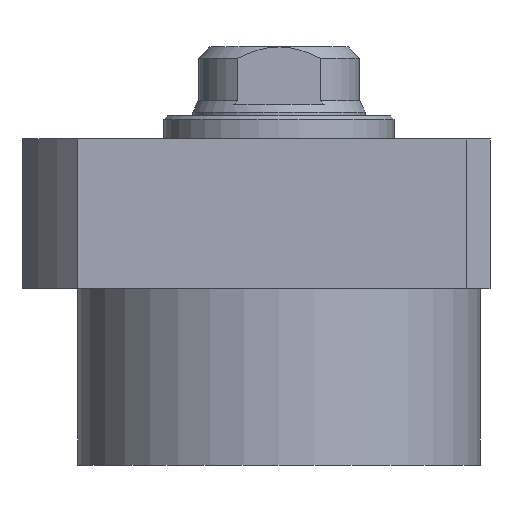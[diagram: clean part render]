
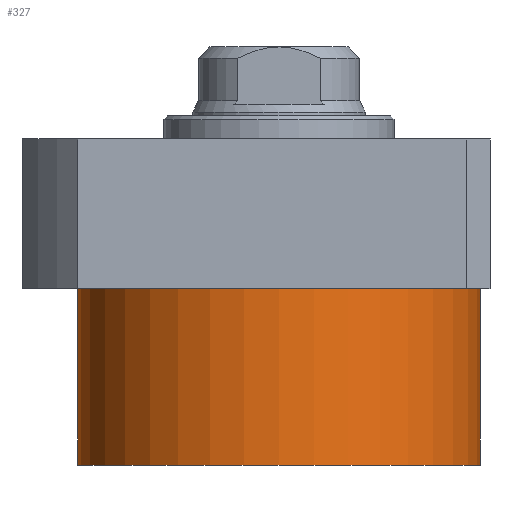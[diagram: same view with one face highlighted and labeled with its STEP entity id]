
A CAD part, front view. The second image highlights one B-rep face of the part: STEP entity #327.
In plain terms, the highlighted cylindrical face has radius 52.5 mm (diameter 105 mm), a partial arc.
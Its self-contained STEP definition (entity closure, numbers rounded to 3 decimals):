
#40 = CARTESIAN_POINT ( 'NONE',  ( 52.5, 0., -65.5 ) ) ;
#56 = DIRECTION ( 'NONE',  ( -1., 0., 0. ) ) ;
#138 = LINE ( 'NONE', #40, #1733 ) ;
#140 = EDGE_CURVE ( 'NONE', #276, #482, #1767, .T. ) ;
#204 = DIRECTION ( 'NONE',  ( 0., 0., 1. ) ) ;
#209 = ORIENTED_EDGE ( 'NONE', *, *, #1036, .T. ) ;
#259 = AXIS2_PLACEMENT_3D ( 'NONE', #1685, #1838, #56 ) ;
#276 = VERTEX_POINT ( 'NONE', #1427 ) ;
#327 = ADVANCED_FACE ( 'NONE', ( #997 ), #902, .T. ) ;
#421 = CIRCLE ( 'NONE', #259, 52.5 ) ;
#482 = VERTEX_POINT ( 'NONE', #1131 ) ;
#538 = DIRECTION ( 'NONE',  ( 1., 0., 0. ) ) ;
#654 = CARTESIAN_POINT ( 'NONE',  ( 52.5, 0., -65.5 ) ) ;
#735 = VERTEX_POINT ( 'NONE', #654 ) ;
#739 = ORIENTED_EDGE ( 'NONE', *, *, #1339, .T. ) ;
#770 = EDGE_CURVE ( 'NONE', #735, #276, #421, .T. ) ;
#820 = DIRECTION ( 'NONE',  ( 0., 0., 1. ) ) ;
#831 = ORIENTED_EDGE ( 'NONE', *, *, #140, .F. ) ;
#866 = CARTESIAN_POINT ( 'NONE',  ( 52.5, 0., -19.5 ) ) ;
#887 = EDGE_LOOP ( 'NONE', ( #831, #1107, #209, #739 ) ) ;
#902 = CYLINDRICAL_SURFACE ( 'NONE', #955, 52.5 ) ;
#922 = VECTOR ( 'NONE', #1481, 1000. ) ;
#955 = AXIS2_PLACEMENT_3D ( 'NONE', #1736, #820, #538 ) ;
#997 = FACE_OUTER_BOUND ( 'NONE', #887, .T. ) ;
#1036 = EDGE_CURVE ( 'NONE', #735, #1700, #138, .T. ) ;
#1107 = ORIENTED_EDGE ( 'NONE', *, *, #770, .F. ) ;
#1131 = CARTESIAN_POINT ( 'NONE',  ( -52.5, 0., -19.5 ) ) ;
#1294 = CARTESIAN_POINT ( 'NONE',  ( 0., 0., -19.5 ) ) ;
#1328 = AXIS2_PLACEMENT_3D ( 'NONE', #1294, #1612, #1773 ) ;
#1339 = EDGE_CURVE ( 'NONE', #1700, #482, #1777, .T. ) ;
#1427 = CARTESIAN_POINT ( 'NONE',  ( -52.5, 0., -65.5 ) ) ;
#1481 = DIRECTION ( 'NONE',  ( 0., 0., 1. ) ) ;
#1499 = CARTESIAN_POINT ( 'NONE',  ( -52.5, 0., -65.5 ) ) ;
#1612 = DIRECTION ( 'NONE',  ( 0., 0., -1. ) ) ;
#1685 = CARTESIAN_POINT ( 'NONE',  ( 0., 0., -65.5 ) ) ;
#1700 = VERTEX_POINT ( 'NONE', #866 ) ;
#1733 = VECTOR ( 'NONE', #204, 1000. ) ;
#1736 = CARTESIAN_POINT ( 'NONE',  ( 0., 0., -65.5 ) ) ;
#1767 = LINE ( 'NONE', #1499, #922 ) ;
#1773 = DIRECTION ( 'NONE',  ( 1., 0., 0. ) ) ;
#1777 = CIRCLE ( 'NONE', #1328, 52.5 ) ;
#1838 = DIRECTION ( 'NONE',  ( 0., 0., -1. ) ) ;
